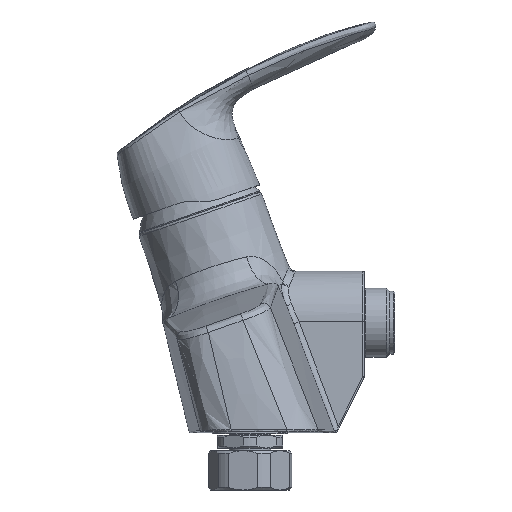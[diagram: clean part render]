
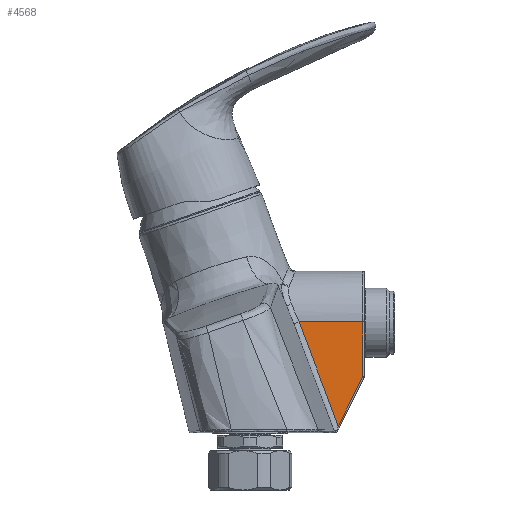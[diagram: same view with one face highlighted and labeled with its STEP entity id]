
A CAD part, left-side view. The second image highlights one B-rep face of the part: STEP entity #4568.
In plain terms, the highlighted planar face has unit normal (-1, 0, 0.018).
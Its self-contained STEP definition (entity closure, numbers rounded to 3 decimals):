
#421 = LINE ( 'NONE', #10330, #6419 ) ;
#547 = ORIENTED_EDGE ( 'NONE', *, *, #17896, .F. ) ;
#834 = CARTESIAN_POINT ( 'NONE',  ( -19.89, -43.379, 64.295 ) ) ;
#1019 = ORIENTED_EDGE ( 'NONE', *, *, #10708, .T. ) ;
#1318 = DIRECTION ( 'NONE',  ( 0., -1., 0. ) ) ;
#1673 = B_SPLINE_CURVE_WITH_KNOTS ( 'NONE', 3,
 ( #12354, #10435, #4914, #15166 ),
 .UNSPECIFIED., .F., .F.,
 ( 4, 4 ),
 ( 0., 1. ),
 .UNSPECIFIED. ) ;
#1700 = VERTEX_POINT ( 'NONE', #4988 ) ;
#2397 = VERTEX_POINT ( 'NONE', #10379 ) ;
#2596 = DIRECTION ( 'NONE',  ( 0.017, 0., 1. ) ) ;
#3799 = VERTEX_POINT ( 'NONE', #6873 ) ;
#4568 = ADVANCED_FACE ( 'NONE', ( #14713 ), #18525, .T. ) ;
#4914 = CARTESIAN_POINT ( 'NONE',  ( -20.12, -24.362, 51.124 ) ) ;
#4988 = CARTESIAN_POINT ( 'NONE',  ( -19.89, -19.012, 64.295 ) ) ;
#6419 = VECTOR ( 'NONE', #1318, 1000. ) ;
#6583 = EDGE_CURVE ( 'NONE', #13787, #2397, #7416, .T. ) ;
#6873 = CARTESIAN_POINT ( 'NONE',  ( -19.89, -43.379, 64.295 ) ) ;
#7416 = LINE ( 'NONE', #18591, #14688 ) ;
#8189 = LINE ( 'NONE', #834, #9119 ) ;
#8514 = ORIENTED_EDGE ( 'NONE', *, *, #6583, .F. ) ;
#8574 = ORIENTED_EDGE ( 'NONE', *, *, #18870, .F. ) ;
#8672 = DIRECTION ( 'NONE',  ( -0.016, 0.442, -0.897 ) ) ;
#9119 = VECTOR ( 'NONE', #9849, 1000. ) ;
#9849 = DIRECTION ( 'NONE',  ( 0.017, 0., 1. ) ) ;
#10089 = CARTESIAN_POINT ( 'NONE',  ( -19.89, 499885.839, 64.295 ) ) ;
#10330 = CARTESIAN_POINT ( 'NONE',  ( -19.89, 499885.839, 64.295 ) ) ;
#10379 = CARTESIAN_POINT ( 'NONE',  ( -20.587, -34.035, 24.384 ) ) ;
#10435 = CARTESIAN_POINT ( 'NONE',  ( -20.352, -29.371, 37.814 ) ) ;
#10708 = EDGE_CURVE ( 'NONE', #13787, #3799, #8189, .T. ) ;
#10730 = AXIS2_PLACEMENT_3D ( 'NONE', #10089, #11596, #2596 ) ;
#11596 = DIRECTION ( 'NONE',  ( -1., 0., 0.017 ) ) ;
#12354 = CARTESIAN_POINT ( 'NONE',  ( -20.587, -34.035, 24.384 ) ) ;
#13787 = VERTEX_POINT ( 'NONE', #14445 ) ;
#14445 = CARTESIAN_POINT ( 'NONE',  ( -20.255, -43.379, 43.363 ) ) ;
#14688 = VECTOR ( 'NONE', #8672, 1000. ) ;
#14713 = FACE_OUTER_BOUND ( 'NONE', #18156, .T. ) ;
#15166 = CARTESIAN_POINT ( 'NONE',  ( -19.89, -19.012, 64.295 ) ) ;
#17896 = EDGE_CURVE ( 'NONE', #1700, #3799, #421, .T. ) ;
#18156 = EDGE_LOOP ( 'NONE', ( #1019, #547, #8574, #8514 ) ) ;
#18525 = PLANE ( 'NONE',  #10730 ) ;
#18591 = CARTESIAN_POINT ( 'NONE',  ( -20.587, -34.035, 24.384 ) ) ;
#18870 = EDGE_CURVE ( 'NONE', #2397, #1700, #1673, .T. ) ;
